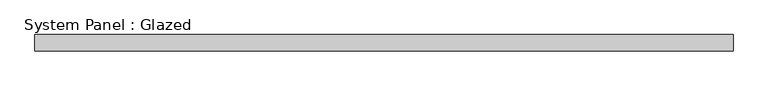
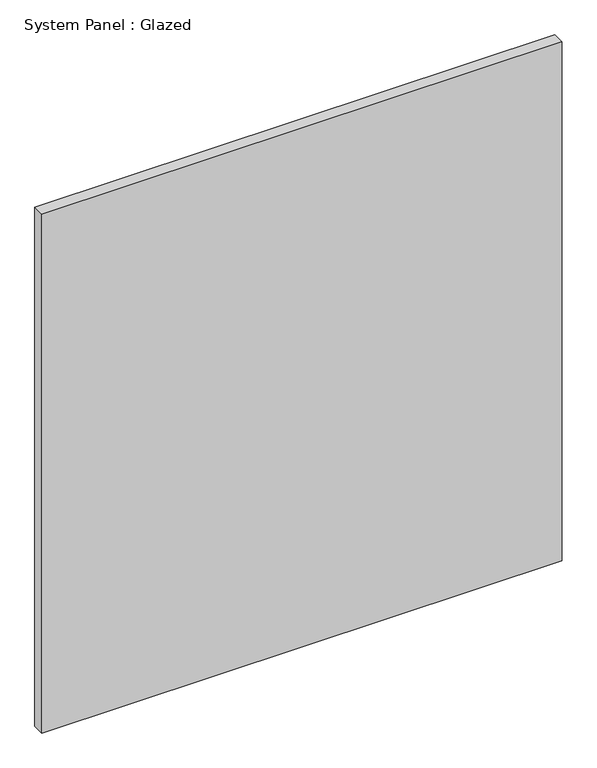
"""IFC4 building model written with IfcOpenShell, lengths in millimetres: plate geometry, System Panel : Glazed."""

from ifc_helpers import new_model, si_unit, origin, origin_with_axes, place, context, project, spatial, polyline, outline, extrude, source, transform, mapped, element, save


def system_panel_glazed_b699a21d(model_context):
    return source(origin(), model_context, "Body", "SweptSolid", [
        extrude(outline(polyline([(541.9079183, 19.05), (-541.9079183, 19.05), (-541.9079183, 44.45), (541.9079183, 44.45), (541.9079183, 19.05)])), origin_with_axes(), (0.0, 0.0, 1.0), 1143.0),
    ])


if __name__ == "__main__":
    model = new_model("IFC4")
    model_context = context("Model", 3, world=origin())
    ifc_project = project(units=[si_unit("LENGTHUNIT", "METRE", prefix="MILLI")], contexts=[model_context])
    site = spatial("IfcSite", under=ifc_project)
    building = spatial("IfcBuilding", under=site)
    placement = place(None, origin())
    system_panel_glazed_shape = system_panel_glazed_b699a21d(model_context)
    element("IfcPlate", 1, ObjectType="System Panel : Glazed", at=placement, inside=building, context=model_context, shape_type="MappedRepresentation", body=[
        mapped(system_panel_glazed_shape, transform((0.0, 0.0, 0.0), x_axis=(1.0, 0.0, 0.0), y_axis=(0.0, 1.0, 0.0), z_axis=(0.0, 0.0, 1.0))),
    ])
    save(model, "model.ifc")
